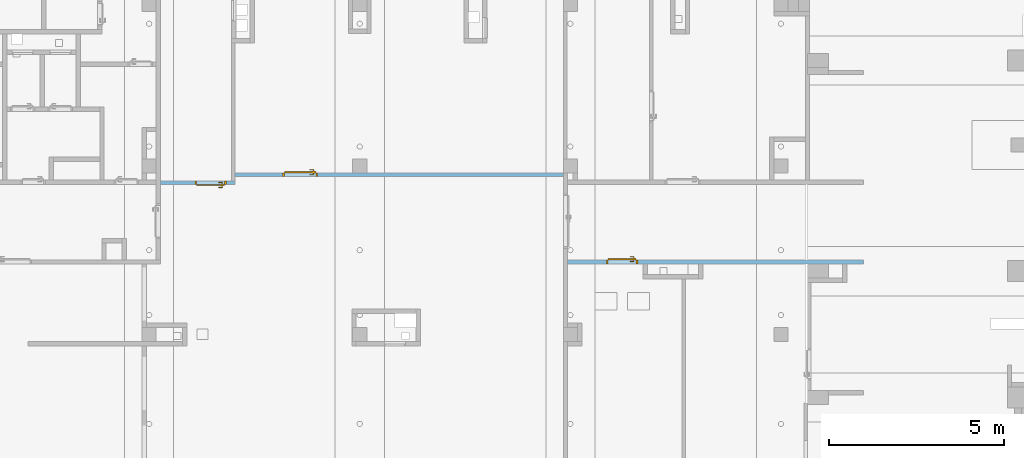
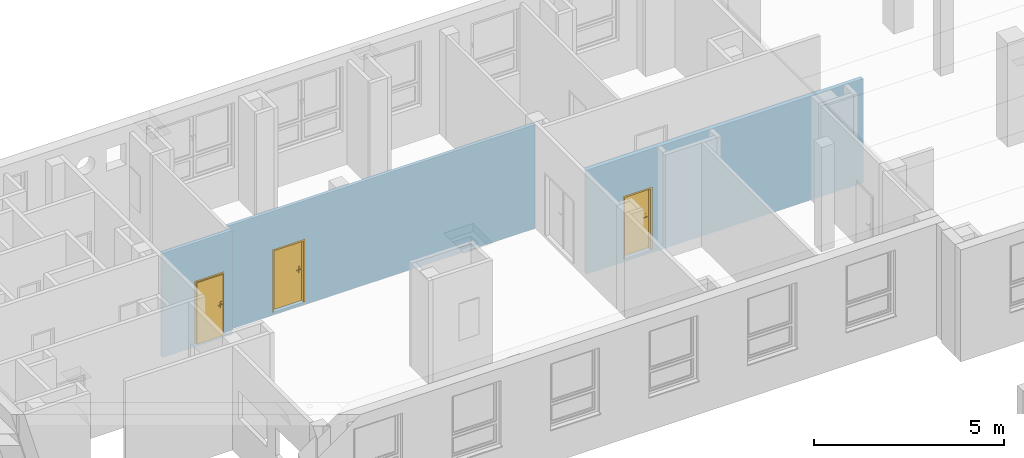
# One storey, part 36 of 50: 3 doors, 3 openings, plus 3 elements that do not belong to this part.
"""IFC4 building model written with IfcOpenShell, lengths in metres."""

import ifcopenshell
import ifcopenshell.guid

model = None  # the IFC model being written
_history = None  # IfcOwnerHistory: only IFC2X3 demands one
_inside = {}  # id of a spatial element -> (the spatial element, [elements in it])
_under = {}  # id of a project, library or spatial element -> (it, [spatial elements below it])
_declared = {}  # id of a project -> (the project, [libraries it declares])
_typed = {}  # id of a type object -> (the type object, [elements of that type])
_made_of = {}  # id of a material, layer set ... -> (it, [elements and type objects made of it])


def new_model(schema):
    """Start an empty IFC model of exactly this schema.

    Asked for "IFC4X3", IfcOpenShell would pick the latest addendum, in which some entities
    have other attributes; the version numbers below select the first issue.
    IFC2X3 requires an IfcOwnerHistory on every rooted entity: one is made here for all.
    """
    global model, _history
    if schema == "IFC4X3":
        model = ifcopenshell.file(schema_version=(4, 3, 0, 0))
    else:
        model = ifcopenshell.file(schema=schema)
    _inside.clear()
    _under.clear()
    _declared.clear()
    _typed.clear()
    _made_of.clear()
    _history = None
    if model.schema == "IFC2X3":
        org = make("IfcOrganization", Name="unknown")
        user = make(
            "IfcPersonAndOrganization",
            ThePerson=make("IfcPerson", FamilyName="unknown"),
            TheOrganization=org,
        )
        app = make(
            "IfcApplication",
            ApplicationDeveloper=org,
            Version="unknown",
            ApplicationFullName="unknown",
            ApplicationIdentifier="unknown",
        )
        _history = make(
            "IfcOwnerHistory",
            OwningUser=user,
            OwningApplication=app,
            ChangeAction="ADDED",
            CreationDate=0,
        )
    return model


def make(cls, **values):
    """One entity of the class cls with the attributes given. An attribute that is None is left unset."""
    return model.create_entity(
        cls, **{name: value for name, value in values.items() if value is not None}
    )


def entity(cls, *values):
    """Any entity or typed value of the class cls, its attributes in the order of the schema. None: left unset."""
    e = model.create_entity(cls)
    for i, value in enumerate(values):
        if value is not None:
            e[i] = value
    return e


def rooted(cls, **values):
    """An entity with a GlobalId (a new one), such as an element, a storey or a relation."""
    return make(cls, GlobalId=ifcopenshell.guid.new(), OwnerHistory=_history, **values)


def si_unit(unit_type, name, prefix=None):
    """IfcSIUnit, for example si_unit("LENGTHUNIT", "METRE", prefix="MILLI")."""
    return make("IfcSIUnit", UnitType=unit_type, Prefix=prefix, Name=name)


def converted_unit(unit_type, name, factor, base, dimensions=None, offset=None):
    """IfcConversionBasedUnit, such as the inch: factor (a typed value) times the base unit."""
    return make(
        "IfcConversionBasedUnit"
        if offset is None
        else "IfcConversionBasedUnitWithOffset",
        ConversionOffset=offset,
        Dimensions=None
        if dimensions is None
        else entity("IfcDimensionalExponents", *dimensions),
        UnitType=unit_type,
        Name=name,
        ConversionFactor=make(
            "IfcMeasureWithUnit", ValueComponent=factor, UnitComponent=base
        ),
    )


def derived_unit(unit_type, elements):
    """IfcDerivedUnit: a product of units, each with its exponent."""
    return make(
        "IfcDerivedUnit",
        Elements=[
            make("IfcDerivedUnitElement", Unit=unit, Exponent=power)
            for unit, power in elements
        ],
        UnitType=unit_type,
    )


def assignment(units):
    """IfcUnitAssignment: the units of a project."""
    return None if units is None else make("IfcUnitAssignment", Units=units)


def point(xyz):
    """IfcCartesianPoint."""
    return None if xyz is None else make("IfcCartesianPoint", Coordinates=xyz)


def direction(xyz):
    """IfcDirection."""
    return None if xyz is None else make("IfcDirection", DirectionRatios=xyz)


def frame(location, z_axis=None, x_axis=None):
    """IfcAxis2Placement3D, a coordinate frame: its origin and axes. An axis left out is left unset."""
    return make(
        "IfcAxis2Placement3D",
        Location=point(location),
        Axis=direction(z_axis),
        RefDirection=direction(x_axis),
    )


def frame_2d(location, x_axis=None):
    """IfcAxis2Placement2D, a coordinate frame in the plane: its origin and x axis."""
    return make(
        "IfcAxis2Placement2D", Location=point(location), RefDirection=direction(x_axis)
    )


def origin():
    """The frame at (0, 0, 0) with its axes left unset."""
    return frame((0.0, 0.0, 0.0))


def origin_with_axes():
    """The frame at (0, 0, 0) with the z axis (0, 0, 1) and the x axis (1, 0, 0) written out."""
    return frame((0.0, 0.0, 0.0), z_axis=(0.0, 0.0, 1.0), x_axis=(1.0, 0.0, 0.0))


def place(relative_to, where):
    """IfcLocalPlacement: puts the frame where relative to a parent placement (None: the world)."""
    return make(
        "IfcLocalPlacement", PlacementRelTo=relative_to, RelativePlacement=where
    )


def context(
    kind, dimensions, precision=None, world=None, true_north=None, identifier=None
):
    """IfcGeometricRepresentationContext, for example the 3D "Model" context."""
    return make(
        "IfcGeometricRepresentationContext",
        ContextIdentifier=identifier,
        ContextType=kind,
        CoordinateSpaceDimension=dimensions,
        Precision=precision,
        WorldCoordinateSystem=world,
        TrueNorth=true_north,
    )


def subcontext(parent, identifier, kind, view, scale=None):
    """IfcGeometricRepresentationSubContext, for example "Body" below "Model"."""
    return make(
        "IfcGeometricRepresentationSubContext",
        ContextIdentifier=identifier,
        ContextType=kind,
        ParentContext=parent,
        TargetScale=scale,
        TargetView=view,
    )


def project(units=None, contexts=None):
    """IfcProject with its units and contexts."""
    return rooted(
        "IfcProject",
        Name="project",
        RepresentationContexts=contexts,
        UnitsInContext=assignment(units),
    )


def spatial(cls, under=None, at=None, **own):
    """A site, building, storey or space (cls), placed at a placement, below another one or the project."""
    s = rooted(cls, ObjectPlacement=at, **own)
    if under is not None:
        _under.setdefault(under.id(), (under, []))[1].append(s)
    return s


def polyline(points):
    """IfcPolyline through the points."""
    return make("IfcPolyline", Points=[point(p) for p in points])


def profile(cls, at=None, kind="AREA", **sizes):
    """A parametric profile (cls). Its sizes go by their IFC names, for example OverallWidth=200.0."""
    return make(cls, ProfileType=kind, Position=at, **sizes)


def rectangle(**sizes):
    """IfcRectangleProfileDef."""
    return profile("IfcRectangleProfileDef", **sizes)


def outline(outer, holes=None, kind="AREA"):
    """IfcArbitraryClosedProfileDef: a profile drawn as a closed curve; with holes, ...WithVoids."""
    if holes is None:
        return make("IfcArbitraryClosedProfileDef", ProfileType=kind, OuterCurve=outer)
    return make(
        "IfcArbitraryProfileDefWithVoids",
        ProfileType=kind,
        OuterCurve=outer,
        InnerCurves=holes,
    )


def extrude(swept, where, along, depth):
    """IfcExtrudedAreaSolid: the profile swept, set in the frame where, extruded along a direction by depth."""
    return make(
        "IfcExtrudedAreaSolid",
        SweptArea=swept,
        Position=where,
        ExtrudedDirection=direction(along),
        Depth=depth,
    )


def faces_of(points, faces, orient=None, outer=None):
    """IfcFace entities. A face is a list of loops; a loop is a list of indices into points, from 0.

    orient and outer hold one flag for each loop. By default every Orientation is true, the
    first loop of a face is its IfcFaceOuterBound and the others are IfcFaceBound.
    """
    made = []
    for i, loops in enumerate(faces):
        bounds = []
        for j, loop in enumerate(loops):
            is_outer = j == 0 if outer is None else outer[i][j]
            bounds.append(
                make(
                    "IfcFaceOuterBound" if is_outer else "IfcFaceBound",
                    Bound=make("IfcPolyLoop", Polygon=[points[k] for k in loop]),
                    Orientation=True if orient is None else orient[i][j],
                )
            )
        made.append(make("IfcFace", Bounds=bounds))
    return made


def closed_shell(faces, orient=None, outer=None):
    """The faces of one IfcClosedShell. faceted_brep and surface_model build it on their shared points."""
    return ("IfcClosedShell", faces, orient, outer)


def open_shell(faces, orient=None, outer=None):
    """The faces of one IfcOpenShell. surface_model builds it on its shared points."""
    return ("IfcOpenShell", faces, orient, outer)


def surface_model(cls, points, shells):
    """IfcFaceBasedSurfaceModel or IfcShellBasedSurfaceModel (cls): surfaces that need not close."""
    shared = [point(p) for p in points]
    made = [make(c, CfsFaces=faces_of(shared, fs, o, b)) for c, fs, o, b in shells]
    if cls == "IfcFaceBasedSurfaceModel":
        return make(cls, FbsmFaces=made)
    return make(cls, SbsmBoundary=made)


def shape(context_of_items, identifier, shape_type, items):
    """IfcShapeRepresentation: the items that make up one representation, for example the "Body"."""
    return make(
        "IfcShapeRepresentation",
        ContextOfItems=context_of_items,
        RepresentationIdentifier=identifier,
        RepresentationType=shape_type,
        Items=items,
    )


def source(mapping_origin, context_of_items, identifier, shape_type, items):
    """IfcRepresentationMap: a shape defined once, which mapped items show again and again."""
    return make(
        "IfcRepresentationMap",
        MappingOrigin=mapping_origin,
        MappedRepresentation=shape(context_of_items, identifier, shape_type, items),
    )


def transform(
    local_origin,
    x_axis=None,
    y_axis=None,
    z_axis=None,
    scale=None,
    scale2=None,
    scale3=None,
    uniform=True,
):
    """IfcCartesianTransformationOperator3D, or its non-uniform kind. x_axis, y_axis, z_axis: its Axis1, 2, 3."""
    if uniform:
        return make(
            "IfcCartesianTransformationOperator3D",
            Axis1=direction(x_axis),
            Axis2=direction(y_axis),
            LocalOrigin=point(local_origin),
            Scale=scale,
            Axis3=direction(z_axis),
        )
    return make(
        "IfcCartesianTransformationOperator3DnonUniform",
        Axis1=direction(x_axis),
        Axis2=direction(y_axis),
        LocalOrigin=point(local_origin),
        Scale=scale,
        Axis3=direction(z_axis),
        Scale2=scale2,
        Scale3=scale3,
    )


def mapped(mapping_source, mapping_target):
    """IfcMappedItem: shows the shape of a source again, moved by a transform."""
    return make(
        "IfcMappedItem", MappingSource=mapping_source, MappingTarget=mapping_target
    )


def material(Name=None, Category=None):
    """IfcMaterial."""
    return make("IfcMaterial", Name=Name, Category=Category)


def layer(
    of_material, thickness, ventilated=None, Name=None, Category=None, Priority=None
):
    """IfcMaterialLayer: one layer of a wall or slab, of a material (None: an air gap)."""
    return make(
        "IfcMaterialLayer",
        Material=of_material,
        LayerThickness=thickness,
        IsVentilated=ventilated,
        Name=Name,
        Category=Category,
        Priority=Priority,
    )


def layer_set(layers, Name=None):
    """IfcMaterialLayerSet."""
    return make("IfcMaterialLayerSet", MaterialLayers=layers, LayerSetName=Name)


def layer_usage(for_layer_set, set_direction, sense, offset, extent=None):
    """IfcMaterialLayerSetUsage: how a layer set lies in its element."""
    return make(
        "IfcMaterialLayerSetUsage",
        ForLayerSet=for_layer_set,
        LayerSetDirection=set_direction,
        DirectionSense=sense,
        OffsetFromReferenceLine=offset,
        ReferenceExtent=extent,
    )


def made_of(thing, what):
    """Note that an element or type object is made of a material, layer set ...; save() writes the relation."""
    if what is not None:
        _made_of.setdefault(what.id(), (what, []))[1].append(thing)
    return thing


def type_object(cls, material=None, **own):
    """A type object (cls), such as IfcWallType, which elements share."""
    return made_of(rooted(cls, **own), material)


def element(
    cls,
    number,
    at=None,
    inside=None,
    cuts=None,
    type_object=None,
    material=None,
    context=None,
    identifier="Body",
    shape_type=None,
    held_by="IfcProductDefinitionShape",
    body=None,
    shapes=None,
    **own,
):
    """One element of the class cls, such as IfcWall. Its Tag is "e" and its number.

    at: its placement. inside: the storey or other place that contains it. cuts: it is an
    opening in that element (IfcRelVoidsElement). A single representation is given by context,
    identifier, shape_type and body (its items); several are given by shapes. held_by: the class
    of the entity that holds the representations. save() writes the other relations.
    """
    e = rooted(cls, Tag="e%d" % number, ObjectPlacement=at, **own)
    if body is not None:
        shapes = [shape(context, identifier, shape_type, body)]
    if shapes is not None:
        e.Representation = make(held_by, Representations=shapes)
    if inside is not None:
        _inside.setdefault(inside.id(), (inside, []))[1].append(e)
    if cuts is not None:
        rooted(
            "IfcRelVoidsElement", RelatingBuildingElement=cuts, RelatedOpeningElement=e
        )
    if type_object is not None:
        _typed.setdefault(type_object.id(), (type_object, []))[1].append(e)
    return made_of(e, material)


def fill(opening, filler):
    """IfcRelFillsElement: the door or window that sits in an opening."""
    return rooted(
        "IfcRelFillsElement",
        RelatingOpeningElement=opening,
        RelatedBuildingElement=filler,
    )


def aggregate(whole, parts):
    """IfcRelAggregates: a whole, such as a stair, and the parts it consists of."""
    return rooted("IfcRelAggregates", RelatingObject=whole, RelatedObjects=parts)


def save(model, path):
    """Write the relations noted so far, then the file.

    IfcRelAggregates (storeys below a building ...), IfcRelContainedInSpatialStructure (elements
    in a storey), IfcRelDefinesByType, IfcRelAssociatesMaterial and IfcRelDeclares: one each for
    every whole, place, type object, material and project.
    """
    for whole, parts in _under.values():
        aggregate(whole, parts)
    for where, things in _inside.values():
        rooted(
            "IfcRelContainedInSpatialStructure",
            RelatedElements=things,
            RelatingStructure=where,
        )
    for kind, things in _typed.values():
        rooted("IfcRelDefinesByType", RelatedObjects=things, RelatingType=kind)
    for what, things in _made_of.values():
        rooted("IfcRelAssociatesMaterial", RelatedObjects=things, RelatingMaterial=what)
    for by, libraries in _declared.values():
        rooted("IfcRelDeclares", RelatingContext=by, RelatedDefinitions=libraries)
    model.write(path)


model = new_model("IFC4")

# Units and contexts
model_context = context("Model", 3, precision=1e-05, world=origin())
body_context = subcontext(model_context, "Body", "Model", "MODEL_VIEW")
ifc_project = project(units=[si_unit("LENGTHUNIT", "METRE"), si_unit("AREAUNIT", "SQUARE_METRE"), si_unit("VOLUMEUNIT", "CUBIC_METRE"), si_unit("MASSUNIT", "GRAM", prefix="KILO"), converted_unit("PLANEANGLEUNIT", "DEGREE", entity("IfcPlaneAngleMeasure", 0.0174532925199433), si_unit("PLANEANGLEUNIT", "RADIAN"), dimensions=[0, 0, 0, 0, 0, 0, 0]), derived_unit("THERMALTRANSMITTANCEUNIT", [(si_unit("POWERUNIT", "WATT"), 1), (si_unit("THERMODYNAMICTEMPERATUREUNIT", "KELVIN"), -1), (si_unit("LENGTHUNIT", "METRE"), -2)]), derived_unit("VOLUMETRICFLOWRATEUNIT", [(si_unit("LENGTHUNIT", "METRE"), 3), (converted_unit("TIMEUNIT", "hour", entity("IfcTimeMeasure", 3600.0), si_unit("TIMEUNIT", "SECOND"), dimensions=[0, 0, 1, 0, 0, 0, 0]), -1), (si_unit("LENGTHUNIT", "METRE"), -1)])], contexts=[model_context])

# Site, building, storey
site_placement = place(None, origin())
site = spatial("IfcSite", under=ifc_project, at=site_placement, Name="3. ASŘ", CompositionType="ELEMENT")
building_placement = place(site_placement, origin())
building = spatial("IfcBuilding", under=site, at=building_placement, Name="Pavilon C", CompositionType="ELEMENT")
storey_placement = place(building_placement, frame((0.0, 0.0, 3.6)))
storey = spatial("IfcBuildingStorey", under=building, at=storey_placement, Name="Půdorys 2.NP", CompositionType="ELEMENT", Elevation=3.6)

# Wall, opening, door
ifc_material_1 = material(Name="ZDIVO Z CDm")
ifc_layer_1 = layer(ifc_material_1, 0.125)
ifc_layer_set_1 = layer_set([ifc_layer_1])
ifc_layer_usage_1 = layer_usage(ifc_layer_set_1, "AXIS2", "POSITIVE", 0.0)
wall_1_placement = place(storey_placement, frame((17.925, 7.40000000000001, -0.1)))
wall_1 = element("IfcWall", 1, at=wall_1_placement, inside=storey, material=ifc_layer_usage_1, Name="ZDIVO Z CDm", context=body_context, shape_type="SweptSolid", body=[
    extrude(rectangle(XDim=8.42499999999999, YDim=0.125, at=frame_2d((4.2125, 0.0625), x_axis=(1.0, 0.0))), origin_with_axes(), (0.0, 0.0, 1.0), 3.35),
])
opening_1_placement = place(wall_1_placement, frame((1.1, 0.0, 0.1), z_axis=(0.0, 1.0, 0.0), x_axis=(0.0, 0.0, 1.0)))
opening_1 = element("IfcOpeningElement", 2, at=opening_1_placement, cuts=wall_1, Name="Dveřní otvor", ObjectType="Opening", context=body_context, shape_type="SweptSolid", body=[
    extrude(outline(polyline([(0.0, 0.9), (2.02, 0.9), (2.02, 0.0), (0.0, 0.0), (0.0, 0.9)])), origin_with_axes(), (0.0, 0.0, 1.0), 0.125),
])
door_type_1 = type_object("IfcDoorType", Name="D101", OperationType="NOTDEFINED", ParameterTakesPrecedence=False, PredefinedType="DOOR")
shared_shape_1 = source(origin_with_axes(), body_context, "Body", "SurfaceModel", [
    surface_model("IfcShellBasedSurfaceModel", [(0.0, 0.125, 2.02), (0.0, 0.125, -7.65404249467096e-18), (0.05, 0.125, -7.65404249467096e-18), (0.05, 0.125, 2.02), (0.0, 0.0, 7.65404249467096e-18), (0.0, 2.41584530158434e-16, 2.02), (0.05, 2.41584530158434e-16, 2.02), (0.05, 0.0, 7.65404249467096e-18)], [closed_shell([[[0, 1, 2, 3]], [[4, 5, 6, 7]], [[1, 0, 5, 4]], [[2, 1, 4, 7]], [[3, 2, 7, 6]], [[0, 3, 6, 5]]], orient=[[False], [False], [False], [False], [False], [False]])]),
    surface_model("IfcShellBasedSurfaceModel", [(0.85, 0.125, 2.02), (0.85, 0.125, -7.65404249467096e-18), (0.9, 0.125, -7.65404249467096e-18), (0.9, 0.125, 2.02), (0.85, 0.0, 7.65404249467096e-18), (0.85, 2.41584530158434e-16, 2.02), (0.9, 2.41584530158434e-16, 2.02), (0.9, 0.0, 7.65404249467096e-18)], [closed_shell([[[0, 1, 2, 3]], [[4, 5, 6, 7]], [[1, 0, 5, 4]], [[2, 1, 4, 7]], [[3, 2, 7, 6]], [[0, 3, 6, 5]]], orient=[[False], [False], [False], [False], [False], [False]])]),
    surface_model("IfcShellBasedSurfaceModel", [(0.05, 0.125, 2.02), (0.05, 0.125, 1.97), (0.85, 0.125, 1.97), (0.85, 0.125, 2.02), (0.05, 2.41584530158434e-16, 1.97), (0.05, 2.41584530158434e-16, 2.02), (0.85, 2.41584530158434e-16, 2.02), (0.85, 2.41584530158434e-16, 1.97)], [closed_shell([[[0, 1, 2, 3]], [[4, 5, 6, 7]], [[1, 0, 5, 4]], [[2, 1, 4, 7]], [[3, 2, 7, 6]], [[0, 3, 6, 5]]], orient=[[False], [False], [False], [False], [False], [False]])]),
    surface_model("IfcShellBasedSurfaceModel", [(0.05, 0.165, 1.97), (0.05, 0.165, -1.25526296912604e-17), (0.85, 0.165, -1.25526296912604e-17), (0.85, 0.165, 1.97), (0.05, 0.125, -7.65404249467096e-18), (0.05, 0.125, 1.97), (0.85, 0.125, 1.97), (0.85, 0.125, -7.65404249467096e-18)], [closed_shell([[[0, 1, 2, 3]], [[4, 5, 6, 7]], [[1, 0, 5, 4]], [[2, 1, 4, 7]], [[3, 2, 7, 6]], [[0, 3, 6, 5]]], orient=[[False], [False], [False], [False], [False], [False]])]),
    surface_model("IfcShellBasedSurfaceModel", [(0.76, 0.125, 1.125), (0.76, 0.125, 0.91), (0.81, 0.125, 0.91), (0.81, 0.125, 1.125), (0.76, 0.115, 0.91), (0.76, 0.115, 1.125), (0.81, 0.115, 1.125), (0.81, 0.115, 0.91)], [closed_shell([[[0, 1, 2, 3]], [[4, 5, 6, 7]], [[1, 0, 5, 4]], [[2, 1, 4, 7]], [[3, 2, 7, 6]], [[0, 3, 6, 5]]], orient=[[False], [False], [False], [False], [False], [False]])]),
    surface_model("IfcShellBasedSurfaceModel", [(0.785, 0.115, 1.06), (0.78, 0.115, 1.05866025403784), (0.776339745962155, 0.115, 1.055), (0.775, 0.115, 1.05), (0.776339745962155, 0.115, 1.045), (0.78, 0.115, 1.04133974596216), (0.785, 0.115, 1.04), (0.79, 0.115, 1.04133974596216), (0.793660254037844, 0.115, 1.045), (0.795, 0.115, 1.05), (0.793660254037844, 0.115, 1.055), (0.79, 0.115, 1.05866025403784), (0.79, 0.0700000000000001, 1.05866025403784), (0.785, 0.0750000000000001, 1.06), (0.793660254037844, 0.0663397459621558, 1.055), (0.795, 0.0650000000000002, 1.05), (0.793660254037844, 0.0663397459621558, 1.045), (0.79, 0.0700000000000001, 1.04133974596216), (0.785, 0.0750000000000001, 1.04), (0.78, 0.0800000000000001, 1.04133974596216), (0.776339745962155, 0.0836602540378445, 1.045), (0.775, 0.0850000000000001, 1.05), (0.776339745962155, 0.0836602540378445, 1.055), (0.78, 0.0800000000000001, 1.05866025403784), (0.67, 0.0700000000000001, 1.05866025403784), (0.67, 0.0750000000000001, 1.06), (0.67, 0.0663397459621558, 1.055), (0.67, 0.0650000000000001, 1.05), (0.67, 0.0663397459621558, 1.045), (0.67, 0.0700000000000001, 1.04133974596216), (0.67, 0.0750000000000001, 1.04), (0.67, 0.0800000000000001, 1.04133974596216), (0.67, 0.0836602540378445, 1.045), (0.67, 0.0850000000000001, 1.05), (0.67, 0.0836602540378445, 1.055), (0.67, 0.0800000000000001, 1.05866025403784)], [open_shell([[[0, 1, 2, 3, 4, 5, 6, 7, 8, 9, 10, 11]], [[0, 11, 12, 13]], [[11, 10, 14, 12]], [[10, 9, 15, 14]], [[9, 8, 16, 15]], [[8, 7, 17, 16]], [[7, 6, 18, 17]], [[6, 5, 19, 18]], [[5, 4, 20, 19]], [[4, 3, 21, 20]], [[3, 2, 22, 21]], [[2, 1, 23, 22]], [[1, 0, 13, 23]], [[13, 12, 24, 25]], [[12, 14, 26, 24]], [[14, 15, 27, 26]], [[15, 16, 28, 27]], [[16, 17, 29, 28]], [[17, 18, 30, 29]], [[18, 19, 31, 30]], [[19, 20, 32, 31]], [[20, 21, 33, 32]], [[21, 22, 34, 33]], [[22, 23, 35, 34]], [[23, 13, 25, 35]]], orient=[[False], [False], [False], [False], [False], [False], [False], [False], [False], [False], [False], [False], [False], [False], [False], [False], [False], [False], [False], [False], [False], [False], [False], [False], [False]])]),
    surface_model("IfcShellBasedSurfaceModel", [(0.76, 0.165, 1.125), (0.81, 0.165, 1.125), (0.81, 0.165, 0.91), (0.76, 0.165, 0.91), (0.76, 0.175, 0.91), (0.81, 0.175, 0.91), (0.81, 0.175, 1.125), (0.76, 0.175, 1.125)], [closed_shell([[[0, 1, 2, 3]], [[4, 5, 6, 7]], [[3, 4, 7, 0]], [[2, 5, 4, 3]], [[1, 6, 5, 2]], [[0, 7, 6, 1]]], orient=[[False], [False], [False], [False], [False], [False]])]),
    surface_model("IfcShellBasedSurfaceModel", [(0.785, 0.175, 1.06), (0.79, 0.175, 1.05866025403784), (0.793660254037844, 0.175, 1.055), (0.795, 0.175, 1.05), (0.793660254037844, 0.175, 1.045), (0.79, 0.175, 1.04133974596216), (0.785, 0.175, 1.04), (0.78, 0.175, 1.04133974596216), (0.776339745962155, 0.175, 1.045), (0.775, 0.175, 1.05), (0.776339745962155, 0.175, 1.055), (0.78, 0.175, 1.05866025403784), (0.785, 0.215, 1.06), (0.79, 0.22, 1.05866025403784), (0.793660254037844, 0.223660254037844, 1.055), (0.795, 0.225, 1.05), (0.793660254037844, 0.223660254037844, 1.045), (0.79, 0.22, 1.04133974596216), (0.785, 0.215, 1.04), (0.78, 0.21, 1.04133974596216), (0.776339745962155, 0.206339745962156, 1.045), (0.775, 0.205, 1.05), (0.776339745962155, 0.206339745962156, 1.055), (0.78, 0.21, 1.05866025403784), (0.67, 0.215, 1.06), (0.67, 0.22, 1.05866025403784), (0.67, 0.223660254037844, 1.055), (0.67, 0.225, 1.05), (0.67, 0.223660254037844, 1.045), (0.67, 0.22, 1.04133974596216), (0.67, 0.215, 1.04), (0.67, 0.21, 1.04133974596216), (0.67, 0.206339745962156, 1.045), (0.67, 0.205, 1.05), (0.67, 0.206339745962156, 1.055), (0.67, 0.21, 1.05866025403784)], [open_shell([[[0, 1, 2, 3, 4, 5, 6, 7, 8, 9, 10, 11]], [[0, 12, 13, 1]], [[1, 13, 14, 2]], [[2, 14, 15, 3]], [[3, 15, 16, 4]], [[4, 16, 17, 5]], [[5, 17, 18, 6]], [[6, 18, 19, 7]], [[7, 19, 20, 8]], [[8, 20, 21, 9]], [[9, 21, 22, 10]], [[10, 22, 23, 11]], [[11, 23, 12, 0]], [[12, 24, 25, 13]], [[13, 25, 26, 14]], [[14, 26, 27, 15]], [[15, 27, 28, 16]], [[16, 28, 29, 17]], [[17, 29, 30, 18]], [[18, 30, 31, 19]], [[19, 31, 32, 20]], [[20, 32, 33, 21]], [[21, 33, 34, 22]], [[22, 34, 35, 23]], [[23, 35, 24, 12]]], orient=[[False], [False], [False], [False], [False], [False], [False], [False], [False], [False], [False], [False], [False], [False], [False], [False], [False], [False], [False], [False], [False], [False], [False], [False], [False]])]),
])
door_1_placement = place(opening_1_placement, frame((0.0, 0.0, 0.0), z_axis=(1.0, 0.0, 0.0), x_axis=(0.0, 1.0, 0.0)))
door_1 = element("IfcDoor", 3, at=door_1_placement, inside=storey, type_object=door_type_1, Name="D101", OverallHeight=2.02, OverallWidth=0.9, context=body_context, shape_type="MappedRepresentation", body=[
    mapped(shared_shape_1, transform((0.0, 0.0, 0.0), x_axis=(1.0, 0.0, 0.0), y_axis=(0.0, 1.0, 0.0), z_axis=(0.0, 0.0, 1.0), scale=1.0)),
])
fill(opening_1, door_1)

ifc_material_2 = material(Name="PÓROBETONOVÉ ZDIVO")
ifc_layer_2 = layer(ifc_material_2, 0.1)
ifc_layer_set_2 = layer_set([ifc_layer_2])
ifc_layer_usage_2 = layer_usage(ifc_layer_set_2, "AXIS2", "POSITIVE", 0.0)
wall_2_placement = place(storey_placement, frame((17.8, 10.0, -0.1), z_axis=(0.0, 0.0, 1.0), x_axis=(-1.0, 0.0, 0.0)))
wall_2 = element("IfcWall", 4, at=wall_2_placement, inside=storey, material=ifc_layer_usage_2, Name="PÓROBETONOVÉ ZDIVO", context=body_context, shape_type="SweptSolid", body=[
    extrude(rectangle(XDim=9.35000000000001, YDim=0.1, at=frame_2d((4.675, 0.05), x_axis=(1.0, 0.0))), origin_with_axes(), (0.0, 0.0, 1.0), 3.35),
])
opening_2_placement = place(wall_2_placement, frame((8.00000000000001, 0.1, 0.1), z_axis=(0.0, -1.0, 0.0), x_axis=(0.0, 0.0, 1.0)))
opening_2 = element("IfcOpeningElement", 5, at=opening_2_placement, cuts=wall_2, Name="Dveřní otvor", ObjectType="Opening", context=body_context, shape_type="SweptSolid", body=[
    extrude(outline(polyline([(0.0, 1.0), (2.02, 1.0), (2.02, 0.0), (0.0, 0.0), (0.0, 1.0)])), origin_with_axes(), (0.0, 0.0, 1.0), 0.1),
])
door_type_2 = type_object("IfcDoorType", Name="D101", OperationType="NOTDEFINED", ParameterTakesPrecedence=False, PredefinedType="DOOR")
shared_shape_2 = source(origin_with_axes(), body_context, "Body", "SurfaceModel", [
    surface_model("IfcShellBasedSurfaceModel", [(0.0, 0.1, 2.02), (0.0, 0.1, -6.12323399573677e-18), (0.05, 0.1, -6.12323399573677e-18), (0.05, 0.1, 2.02), (0.0, 0.0, 6.12323399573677e-18), (0.0, 2.41584530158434e-16, 2.02), (0.05, 2.41584530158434e-16, 2.02), (0.05, 0.0, 6.12323399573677e-18)], [closed_shell([[[0, 1, 2, 3]], [[4, 5, 6, 7]], [[1, 0, 5, 4]], [[2, 1, 4, 7]], [[3, 2, 7, 6]], [[0, 3, 6, 5]]], orient=[[False], [False], [False], [False], [False], [False]])]),
    surface_model("IfcShellBasedSurfaceModel", [(0.95, 0.1, 2.02), (0.95, 0.1, -6.12323399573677e-18), (1.0, 0.1, -6.12323399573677e-18), (1.0, 0.1, 2.02), (0.95, 0.0, 6.12323399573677e-18), (0.95, 2.41584530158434e-16, 2.02), (1.0, 2.41584530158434e-16, 2.02), (1.0, 0.0, 6.12323399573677e-18)], [closed_shell([[[0, 1, 2, 3]], [[4, 5, 6, 7]], [[1, 0, 5, 4]], [[2, 1, 4, 7]], [[3, 2, 7, 6]], [[0, 3, 6, 5]]], orient=[[False], [False], [False], [False], [False], [False]])]),
    surface_model("IfcShellBasedSurfaceModel", [(0.05, 0.1, 2.02), (0.05, 0.1, 1.97), (0.95, 0.1, 1.97), (0.95, 0.1, 2.02), (0.05, 2.41584530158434e-16, 1.97), (0.05, 2.41584530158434e-16, 2.02), (0.95, 2.41584530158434e-16, 2.02), (0.95, 2.41584530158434e-16, 1.97)], [closed_shell([[[0, 1, 2, 3]], [[4, 5, 6, 7]], [[1, 0, 5, 4]], [[2, 1, 4, 7]], [[3, 2, 7, 6]], [[0, 3, 6, 5]]], orient=[[False], [False], [False], [False], [False], [False]])]),
    surface_model("IfcShellBasedSurfaceModel", [(0.05, 0.14, 1.97), (0.05, 0.14, -1.10218211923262e-17), (0.95, 0.14, -1.10218211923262e-17), (0.95, 0.14, 1.97), (0.05, 0.1, -6.12323399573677e-18), (0.05, 0.1, 1.97), (0.95, 0.1, 1.97), (0.95, 0.1, -6.12323399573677e-18)], [closed_shell([[[0, 1, 2, 3]], [[4, 5, 6, 7]], [[1, 0, 5, 4]], [[2, 1, 4, 7]], [[3, 2, 7, 6]], [[0, 3, 6, 5]]], orient=[[False], [False], [False], [False], [False], [False]])]),
    surface_model("IfcShellBasedSurfaceModel", [(0.86, 0.1, 1.125), (0.86, 0.1, 0.91), (0.91, 0.1, 0.91), (0.91, 0.1, 1.125), (0.86, 0.0900000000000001, 0.91), (0.86, 0.0900000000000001, 1.125), (0.91, 0.0900000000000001, 1.125), (0.91, 0.0900000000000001, 0.91)], [closed_shell([[[0, 1, 2, 3]], [[4, 5, 6, 7]], [[1, 0, 5, 4]], [[2, 1, 4, 7]], [[3, 2, 7, 6]], [[0, 3, 6, 5]]], orient=[[False], [False], [False], [False], [False], [False]])]),
    surface_model("IfcShellBasedSurfaceModel", [(0.885, 0.0900000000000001, 1.06), (0.88, 0.0900000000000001, 1.05866025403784), (0.876339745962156, 0.0900000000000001, 1.055), (0.875, 0.0900000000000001, 1.05), (0.876339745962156, 0.0900000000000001, 1.045), (0.88, 0.0900000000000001, 1.04133974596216), (0.885, 0.0900000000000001, 1.04), (0.89, 0.0900000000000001, 1.04133974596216), (0.893660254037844, 0.0900000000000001, 1.045), (0.895, 0.0900000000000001, 1.05), (0.893660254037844, 0.0900000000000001, 1.055), (0.89, 0.0900000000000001, 1.05866025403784), (0.89, 0.0450000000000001, 1.05866025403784), (0.885, 0.0500000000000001, 1.06), (0.893660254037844, 0.0413397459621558, 1.055), (0.895, 0.0400000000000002, 1.05), (0.893660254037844, 0.0413397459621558, 1.045), (0.89, 0.0450000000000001, 1.04133974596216), (0.885, 0.0500000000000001, 1.04), (0.88, 0.0550000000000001, 1.04133974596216), (0.876339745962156, 0.0586602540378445, 1.045), (0.875, 0.0600000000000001, 1.05), (0.876339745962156, 0.0586602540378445, 1.055), (0.88, 0.0550000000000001, 1.05866025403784), (0.77, 0.0450000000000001, 1.05866025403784), (0.77, 0.0500000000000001, 1.06), (0.77, 0.0413397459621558, 1.055), (0.77, 0.0400000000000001, 1.05), (0.77, 0.0413397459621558, 1.045), (0.77, 0.0450000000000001, 1.04133974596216), (0.77, 0.0500000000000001, 1.04), (0.77, 0.0550000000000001, 1.04133974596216), (0.77, 0.0586602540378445, 1.045), (0.77, 0.0600000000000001, 1.05), (0.77, 0.0586602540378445, 1.055), (0.77, 0.0550000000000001, 1.05866025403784)], [open_shell([[[0, 1, 2, 3, 4, 5, 6, 7, 8, 9, 10, 11]], [[0, 11, 12, 13]], [[11, 10, 14, 12]], [[10, 9, 15, 14]], [[9, 8, 16, 15]], [[8, 7, 17, 16]], [[7, 6, 18, 17]], [[6, 5, 19, 18]], [[5, 4, 20, 19]], [[4, 3, 21, 20]], [[3, 2, 22, 21]], [[2, 1, 23, 22]], [[1, 0, 13, 23]], [[13, 12, 24, 25]], [[12, 14, 26, 24]], [[14, 15, 27, 26]], [[15, 16, 28, 27]], [[16, 17, 29, 28]], [[17, 18, 30, 29]], [[18, 19, 31, 30]], [[19, 20, 32, 31]], [[20, 21, 33, 32]], [[21, 22, 34, 33]], [[22, 23, 35, 34]], [[23, 13, 25, 35]]], orient=[[False], [False], [False], [False], [False], [False], [False], [False], [False], [False], [False], [False], [False], [False], [False], [False], [False], [False], [False], [False], [False], [False], [False], [False], [False]])]),
    surface_model("IfcShellBasedSurfaceModel", [(0.86, 0.14, 1.125), (0.91, 0.14, 1.125), (0.91, 0.14, 0.91), (0.86, 0.14, 0.91), (0.86, 0.15, 0.91), (0.91, 0.15, 0.91), (0.91, 0.15, 1.125), (0.86, 0.15, 1.125)], [closed_shell([[[0, 1, 2, 3]], [[4, 5, 6, 7]], [[3, 4, 7, 0]], [[2, 5, 4, 3]], [[1, 6, 5, 2]], [[0, 7, 6, 1]]], orient=[[False], [False], [False], [False], [False], [False]])]),
    surface_model("IfcShellBasedSurfaceModel", [(0.885, 0.15, 1.06), (0.89, 0.15, 1.05866025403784), (0.893660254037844, 0.15, 1.055), (0.895, 0.15, 1.05), (0.893660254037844, 0.15, 1.045), (0.89, 0.15, 1.04133974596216), (0.885, 0.15, 1.04), (0.88, 0.15, 1.04133974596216), (0.876339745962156, 0.15, 1.045), (0.875, 0.15, 1.05), (0.876339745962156, 0.15, 1.055), (0.88, 0.15, 1.05866025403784), (0.885, 0.19, 1.06), (0.89, 0.195, 1.05866025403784), (0.893660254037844, 0.198660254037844, 1.055), (0.895, 0.2, 1.05), (0.893660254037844, 0.198660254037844, 1.045), (0.89, 0.195, 1.04133974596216), (0.885, 0.19, 1.04), (0.88, 0.185, 1.04133974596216), (0.876339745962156, 0.181339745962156, 1.045), (0.875, 0.18, 1.05), (0.876339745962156, 0.181339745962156, 1.055), (0.88, 0.185, 1.05866025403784), (0.77, 0.19, 1.06), (0.77, 0.195, 1.05866025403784), (0.77, 0.198660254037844, 1.055), (0.77, 0.2, 1.05), (0.77, 0.198660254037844, 1.045), (0.77, 0.195, 1.04133974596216), (0.77, 0.19, 1.04), (0.77, 0.185, 1.04133974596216), (0.77, 0.181339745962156, 1.045), (0.77, 0.18, 1.05), (0.77, 0.181339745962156, 1.055), (0.77, 0.185, 1.05866025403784)], [open_shell([[[0, 1, 2, 3, 4, 5, 6, 7, 8, 9, 10, 11]], [[0, 12, 13, 1]], [[1, 13, 14, 2]], [[2, 14, 15, 3]], [[3, 15, 16, 4]], [[4, 16, 17, 5]], [[5, 17, 18, 6]], [[6, 18, 19, 7]], [[7, 19, 20, 8]], [[8, 20, 21, 9]], [[9, 21, 22, 10]], [[10, 22, 23, 11]], [[11, 23, 12, 0]], [[12, 24, 25, 13]], [[13, 25, 26, 14]], [[14, 26, 27, 15]], [[15, 27, 28, 16]], [[16, 28, 29, 17]], [[17, 29, 30, 18]], [[18, 30, 31, 19]], [[19, 31, 32, 20]], [[20, 32, 33, 21]], [[21, 33, 34, 22]], [[22, 34, 35, 23]], [[23, 35, 24, 12]]], orient=[[False], [False], [False], [False], [False], [False], [False], [False], [False], [False], [False], [False], [False], [False], [False], [False], [False], [False], [False], [False], [False], [False], [False], [False], [False]])]),
])
door_2_placement = place(opening_2_placement, frame((0.0, 0.0, 0.0), z_axis=(1.0, 0.0, 0.0), x_axis=(0.0, 1.0, 0.0)))
door_2 = element("IfcDoor", 6, at=door_2_placement, inside=storey, type_object=door_type_2, Name="D101", OverallHeight=2.02, OverallWidth=1.0, context=body_context, shape_type="MappedRepresentation", body=[
    mapped(shared_shape_2, transform((0.0, 0.0, 0.0), x_axis=(1.0, 0.0, 0.0), y_axis=(0.0, 1.0, 0.0), z_axis=(0.0, 0.0, 1.0), scale=1.0)),
])
fill(opening_2, door_2)

ifc_material_3 = material(Name="PÓROBETONOVÉ ZDIVO")
ifc_layer_3 = layer(ifc_material_3, 0.1)
ifc_layer_set_3 = layer_set([ifc_layer_3])
ifc_layer_usage_3 = layer_usage(ifc_layer_set_3, "AXIS2", "POSITIVE", 0.0)
wall_3_placement = place(storey_placement, frame((6.32500000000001, 9.675, -0.1)))
wall_3 = element("IfcWall", 7, at=wall_3_placement, inside=storey, material=ifc_layer_usage_3, Name="PÓROBETONOVÉ ZDIVO", context=body_context, shape_type="SweptSolid", body=[
    extrude(rectangle(XDim=2.125, YDim=0.1, at=frame_2d((1.0625, 0.05), x_axis=(1.0, 0.0))), origin_with_axes(), (0.0, 0.0, 1.0), 3.35),
])
opening_3_placement = place(wall_3_placement, frame((1.875, 0.1, 0.1), z_axis=(0.0, -1.0, 0.0), x_axis=(0.0, 0.0, 1.0)))
opening_3 = element("IfcOpeningElement", 8, at=opening_3_placement, cuts=wall_3, Name="Dveřní otvor", ObjectType="Opening", context=body_context, shape_type="SweptSolid", body=[
    extrude(outline(polyline([(0.0, 0.899999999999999), (2.02, 0.899999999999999), (2.02, 0.0), (0.0, 0.0), (0.0, 0.899999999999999)])), origin_with_axes(), (0.0, 0.0, 1.0), 0.1),
])
door_type_3 = type_object("IfcDoorType", Name="D101", OperationType="NOTDEFINED", ParameterTakesPrecedence=False, PredefinedType="DOOR")
shared_shape_3 = source(origin_with_axes(), body_context, "Body", "SurfaceModel", [
    surface_model("IfcShellBasedSurfaceModel", [(0.0, 0.100000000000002, 2.02), (0.0, 0.100000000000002, -6.12323399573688e-18), (0.05, 0.100000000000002, -6.12323399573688e-18), (0.05, 0.100000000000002, 2.02), (0.0, 0.0, 6.12323399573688e-18), (0.0, 2.41584530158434e-16, 2.02), (0.05, 2.41584530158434e-16, 2.02), (0.05, 0.0, 6.12323399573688e-18)], [closed_shell([[[0, 1, 2, 3]], [[4, 5, 6, 7]], [[1, 0, 5, 4]], [[2, 1, 4, 7]], [[3, 2, 7, 6]], [[0, 3, 6, 5]]], orient=[[False], [False], [False], [False], [False], [False]])]),
    surface_model("IfcShellBasedSurfaceModel", [(0.85, 0.100000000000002, 2.02), (0.85, 0.100000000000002, -6.12323399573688e-18), (0.9, 0.100000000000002, -6.12323399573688e-18), (0.9, 0.100000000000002, 2.02), (0.85, 0.0, 6.12323399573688e-18), (0.85, 2.41584530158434e-16, 2.02), (0.9, 2.41584530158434e-16, 2.02), (0.9, 0.0, 6.12323399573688e-18)], [closed_shell([[[0, 1, 2, 3]], [[4, 5, 6, 7]], [[1, 0, 5, 4]], [[2, 1, 4, 7]], [[3, 2, 7, 6]], [[0, 3, 6, 5]]], orient=[[False], [False], [False], [False], [False], [False]])]),
    surface_model("IfcShellBasedSurfaceModel", [(0.05, 0.100000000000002, 2.02), (0.05, 0.100000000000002, 1.97), (0.85, 0.100000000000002, 1.97), (0.85, 0.100000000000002, 2.02), (0.05, 2.41584530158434e-16, 1.97), (0.05, 2.41584530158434e-16, 2.02), (0.85, 2.41584530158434e-16, 2.02), (0.85, 2.41584530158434e-16, 1.97)], [closed_shell([[[0, 1, 2, 3]], [[4, 5, 6, 7]], [[1, 0, 5, 4]], [[2, 1, 4, 7]], [[3, 2, 7, 6]], [[0, 3, 6, 5]]], orient=[[False], [False], [False], [False], [False], [False]])]),
    surface_model("IfcShellBasedSurfaceModel", [(0.05, 0.140000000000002, 1.97), (0.05, 0.140000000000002, -1.10218211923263e-17), (0.85, 0.140000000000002, -1.10218211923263e-17), (0.85, 0.140000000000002, 1.97), (0.05, 0.100000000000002, -6.12323399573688e-18), (0.05, 0.100000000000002, 1.97), (0.85, 0.100000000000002, 1.97), (0.85, 0.100000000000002, -6.12323399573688e-18)], [closed_shell([[[0, 1, 2, 3]], [[4, 5, 6, 7]], [[1, 0, 5, 4]], [[2, 1, 4, 7]], [[3, 2, 7, 6]], [[0, 3, 6, 5]]], orient=[[False], [False], [False], [False], [False], [False]])]),
    surface_model("IfcShellBasedSurfaceModel", [(0.76, 0.100000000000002, 1.125), (0.76, 0.100000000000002, 0.91), (0.81, 0.100000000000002, 0.91), (0.81, 0.100000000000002, 1.125), (0.76, 0.0900000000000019, 0.91), (0.76, 0.090000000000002, 1.125), (0.81, 0.090000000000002, 1.125), (0.81, 0.0900000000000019, 0.91)], [closed_shell([[[0, 1, 2, 3]], [[4, 5, 6, 7]], [[1, 0, 5, 4]], [[2, 1, 4, 7]], [[3, 2, 7, 6]], [[0, 3, 6, 5]]], orient=[[False], [False], [False], [False], [False], [False]])]),
    surface_model("IfcShellBasedSurfaceModel", [(0.785, 0.090000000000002, 1.06), (0.78, 0.090000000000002, 1.05866025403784), (0.776339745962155, 0.090000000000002, 1.055), (0.775, 0.090000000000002, 1.05), (0.776339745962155, 0.090000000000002, 1.045), (0.78, 0.090000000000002, 1.04133974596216), (0.785, 0.090000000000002, 1.04), (0.79, 0.090000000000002, 1.04133974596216), (0.793660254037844, 0.090000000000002, 1.045), (0.795, 0.090000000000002, 1.05), (0.793660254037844, 0.090000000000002, 1.055), (0.79, 0.090000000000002, 1.05866025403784), (0.79, 0.045000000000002, 1.05866025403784), (0.785, 0.050000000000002, 1.06), (0.793660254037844, 0.0413397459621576, 1.055), (0.795, 0.040000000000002, 1.05), (0.793660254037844, 0.0413397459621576, 1.045), (0.79, 0.045000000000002, 1.04133974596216), (0.785, 0.050000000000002, 1.04), (0.78, 0.055000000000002, 1.04133974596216), (0.776339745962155, 0.0586602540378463, 1.045), (0.775, 0.060000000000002, 1.05), (0.776339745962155, 0.0586602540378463, 1.055), (0.78, 0.055000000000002, 1.05866025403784), (0.67, 0.045000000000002, 1.05866025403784), (0.67, 0.050000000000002, 1.06), (0.67, 0.0413397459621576, 1.055), (0.67, 0.040000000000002, 1.05), (0.67, 0.0413397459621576, 1.045), (0.67, 0.045000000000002, 1.04133974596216), (0.67, 0.050000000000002, 1.04), (0.67, 0.055000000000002, 1.04133974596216), (0.67, 0.0586602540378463, 1.045), (0.67, 0.0600000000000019, 1.05), (0.67, 0.0586602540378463, 1.055), (0.67, 0.055000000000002, 1.05866025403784)], [open_shell([[[0, 1, 2, 3, 4, 5, 6, 7, 8, 9, 10, 11]], [[0, 11, 12, 13]], [[11, 10, 14, 12]], [[10, 9, 15, 14]], [[9, 8, 16, 15]], [[8, 7, 17, 16]], [[7, 6, 18, 17]], [[6, 5, 19, 18]], [[5, 4, 20, 19]], [[4, 3, 21, 20]], [[3, 2, 22, 21]], [[2, 1, 23, 22]], [[1, 0, 13, 23]], [[13, 12, 24, 25]], [[12, 14, 26, 24]], [[14, 15, 27, 26]], [[15, 16, 28, 27]], [[16, 17, 29, 28]], [[17, 18, 30, 29]], [[18, 19, 31, 30]], [[19, 20, 32, 31]], [[20, 21, 33, 32]], [[21, 22, 34, 33]], [[22, 23, 35, 34]], [[23, 13, 25, 35]]], orient=[[False], [False], [False], [False], [False], [False], [False], [False], [False], [False], [False], [False], [False], [False], [False], [False], [False], [False], [False], [False], [False], [False], [False], [False], [False]])]),
    surface_model("IfcShellBasedSurfaceModel", [(0.76, 0.140000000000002, 1.125), (0.81, 0.140000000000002, 1.125), (0.81, 0.140000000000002, 0.91), (0.76, 0.140000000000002, 0.91), (0.76, 0.150000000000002, 0.91), (0.81, 0.150000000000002, 0.91), (0.81, 0.150000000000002, 1.125), (0.76, 0.150000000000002, 1.125)], [closed_shell([[[0, 1, 2, 3]], [[4, 5, 6, 7]], [[3, 4, 7, 0]], [[2, 5, 4, 3]], [[1, 6, 5, 2]], [[0, 7, 6, 1]]], orient=[[False], [False], [False], [False], [False], [False]])]),
    surface_model("IfcShellBasedSurfaceModel", [(0.785, 0.150000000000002, 1.06), (0.79, 0.150000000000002, 1.05866025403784), (0.793660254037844, 0.150000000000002, 1.055), (0.795, 0.150000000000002, 1.05), (0.793660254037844, 0.150000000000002, 1.045), (0.79, 0.150000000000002, 1.04133974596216), (0.785, 0.150000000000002, 1.04), (0.78, 0.150000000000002, 1.04133974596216), (0.776339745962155, 0.150000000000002, 1.045), (0.775, 0.150000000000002, 1.05), (0.776339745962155, 0.150000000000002, 1.055), (0.78, 0.150000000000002, 1.05866025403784), (0.785, 0.190000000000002, 1.06), (0.79, 0.195000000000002, 1.05866025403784), (0.793660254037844, 0.198660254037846, 1.055), (0.795, 0.200000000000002, 1.05), (0.793660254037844, 0.198660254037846, 1.045), (0.79, 0.195000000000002, 1.04133974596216), (0.785, 0.190000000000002, 1.04), (0.78, 0.185000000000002, 1.04133974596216), (0.776339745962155, 0.181339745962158, 1.045), (0.775, 0.180000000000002, 1.05), (0.776339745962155, 0.181339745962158, 1.055), (0.78, 0.185000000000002, 1.05866025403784), (0.67, 0.190000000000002, 1.06), (0.67, 0.195000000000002, 1.05866025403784), (0.67, 0.198660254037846, 1.055), (0.67, 0.200000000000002, 1.05), (0.67, 0.198660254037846, 1.045), (0.67, 0.195000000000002, 1.04133974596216), (0.67, 0.190000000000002, 1.04), (0.67, 0.185000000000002, 1.04133974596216), (0.67, 0.181339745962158, 1.045), (0.67, 0.180000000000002, 1.05), (0.67, 0.181339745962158, 1.055), (0.67, 0.185000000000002, 1.05866025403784)], [open_shell([[[0, 1, 2, 3, 4, 5, 6, 7, 8, 9, 10, 11]], [[0, 12, 13, 1]], [[1, 13, 14, 2]], [[2, 14, 15, 3]], [[3, 15, 16, 4]], [[4, 16, 17, 5]], [[5, 17, 18, 6]], [[6, 18, 19, 7]], [[7, 19, 20, 8]], [[8, 20, 21, 9]], [[9, 21, 22, 10]], [[10, 22, 23, 11]], [[11, 23, 12, 0]], [[12, 24, 25, 13]], [[13, 25, 26, 14]], [[14, 26, 27, 15]], [[15, 27, 28, 16]], [[16, 28, 29, 17]], [[17, 29, 30, 18]], [[18, 30, 31, 19]], [[19, 31, 32, 20]], [[20, 32, 33, 21]], [[21, 33, 34, 22]], [[22, 34, 35, 23]], [[23, 35, 24, 12]]], orient=[[False], [False], [False], [False], [False], [False], [False], [False], [False], [False], [False], [False], [False], [False], [False], [False], [False], [False], [False], [False], [False], [False], [False], [False], [False]])]),
])
door_3_placement = place(opening_3_placement, frame((0.0, 0.9, -1.81898940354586e-15), z_axis=(1.0, 0.0, 0.0), x_axis=(0.0, -0.999999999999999, 1.22464679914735e-16)))
door_3 = element("IfcDoor", 9, at=door_3_placement, inside=storey, type_object=door_type_3, Name="D101", OverallHeight=2.02, OverallWidth=0.9, context=body_context, shape_type="MappedRepresentation", body=[
    mapped(shared_shape_3, transform((0.0, 0.0, 0.0), x_axis=(1.0, 0.0, 0.0), y_axis=(0.0, -1.0, 0.0), z_axis=(0.0, 0.0, 1.0), scale=0.999999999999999)),
])
fill(opening_3, door_3)

save(model, "model.ifc")
